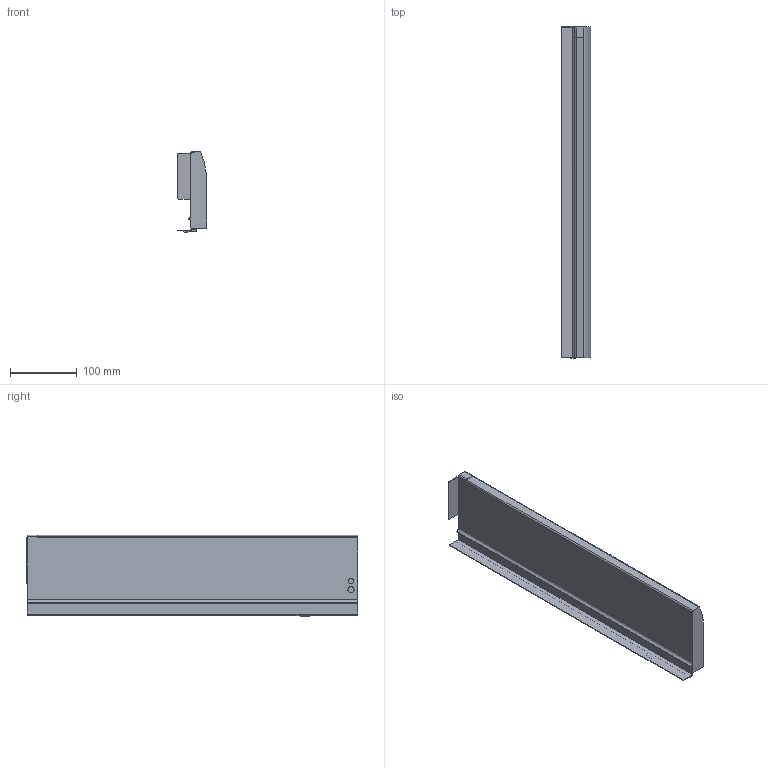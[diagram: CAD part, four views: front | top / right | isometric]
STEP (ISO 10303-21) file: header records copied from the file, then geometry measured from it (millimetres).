
FILE_DESCRIPTION (( 'STEP AP214' ), '1' );
FILE_NAME ('_IMOS_NOVA-Pro_Dekor-H122_DL_NL500_RE.step', '2010-07-14T11:02:01', ( 'grass' ), ( '' ), 'SwSTEP 2.0', 'SolidWorks 2010', '' );
FILE_SCHEMA (( 'AUTOMOTIVE_DESIGN' ));
Length unit declared in the file: millimetre
Products named in the file (1): _IMOS_NOVA-Pro_Dekor-H122_DL_NL500_RE
Bounding box: 44.3 x 498.45 x 122.49 mm (x, y, z)
Volume: 918602.1 mm3; surface area: 204514.9 mm2
Topology: 1 solids, 1 shells, 72 faces, 201 edges, 134 vertices
Faces by surface type: plane 49, cylinder 22, bspline 1
Entity records: 2349 total; most frequent: CARTESIAN_POINT 421, ORIENTED_EDGE 402, DIRECTION 390, EDGE_CURVE 201, VECTOR 152, LINE 152, VERTEX_POINT 134, AXIS2_PLACEMENT_3D 119
